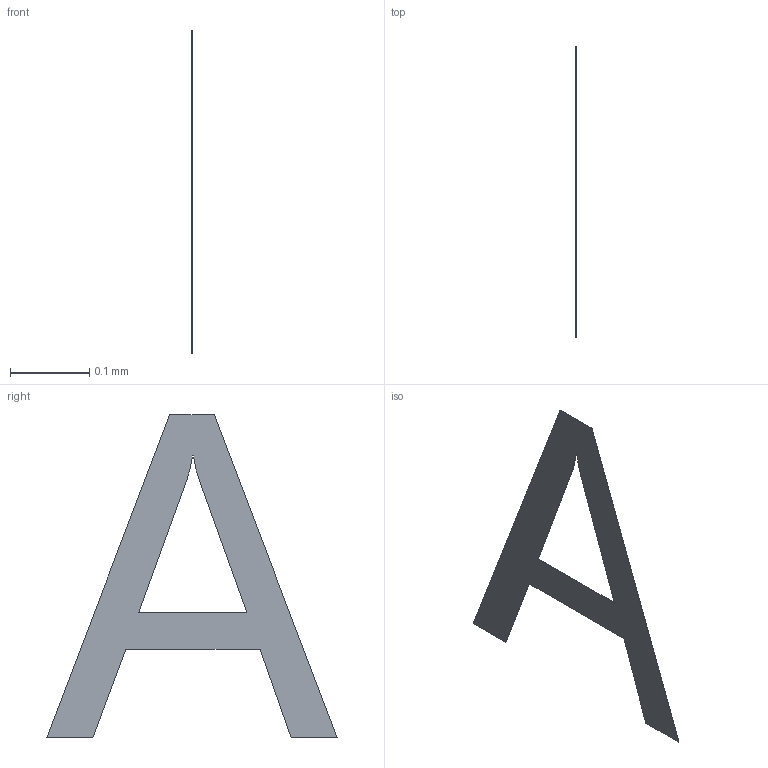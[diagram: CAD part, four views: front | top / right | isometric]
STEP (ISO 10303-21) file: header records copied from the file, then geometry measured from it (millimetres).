
FILE_DESCRIPTION(/* description */ ('STEP AP242 Edition 2','CAx-IF Rec.Pracs.---Representation and Presentation of Product Manufacturing Information (PMI)---4.0---2014-10-13','CAx-IF Rec.Pracs.---3D Tessellated Geometry---0.4---2014-09-14','2;1','CAx-IF Rec.Pracs.---User Defined Attributes---1.5---2016-08-15'),/* implementation_level */ '2;1');
FILE_NAME(/* name */ 'Assembly 1 - CONN-TH_HFBR-1521Z~CONN-TH_HFBR-1521Z~nxQB',/* time_stamp */ '2026-04-02T09:55:12Z',/* author */ (''),/* organization */ (''),/* preprocessor_version */ 'ST-DEVELOPER v20',/* originating_system */ 'ONSHAPE BY PTC INC, 1.212',/* authorisation */ ' ');
FILE_SCHEMA (('AP242_MANAGED_MODEL_BASED_3D_ENGINEERING_MIM_LF { 1 0 10303 442 3 1 4 }'));
Length unit declared in the file: metre
Products named in the file (1): CONN-TH_HFBR-1521Z~CONN-TH_HFBR-1521Z~nxQB
Bounding box: 0 x 0.37 x 0.41 mm (x, y, z)
Volume: 0 mm3; surface area: 0.1 mm2
Topology: 1 solids, 1 shells, 16 faces, 42 edges, 28 vertices
Faces by surface type: plane 14, bspline 2
Entity records: 637 total; most frequent: CARTESIAN_POINT 113, ORIENTED_EDGE 84, DIRECTION 68, EDGE_CURVE 42, LINE 38, VECTOR 38, VERTEX_POINT 28, EDGE_LOOP 18
